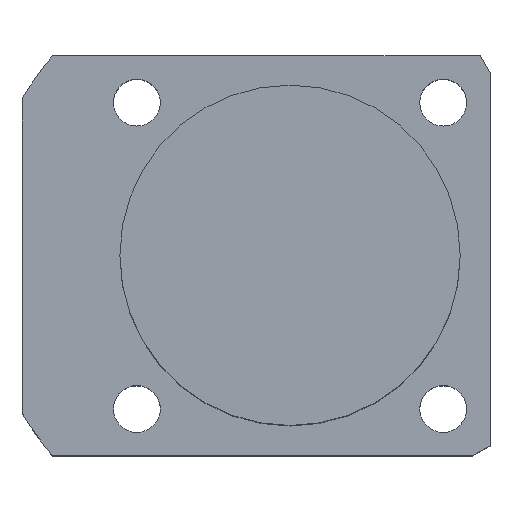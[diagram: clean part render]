
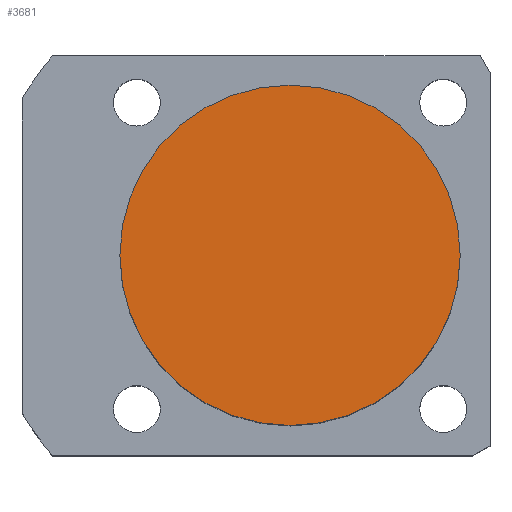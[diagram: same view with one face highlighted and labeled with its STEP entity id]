
A CAD part, top view. The second image highlights one B-rep face of the part: STEP entity #3681.
In plain terms, the highlighted planar face has unit normal (0, 0, 1).
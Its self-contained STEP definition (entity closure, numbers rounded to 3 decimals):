
#34 = CARTESIAN_POINT ( 'NONE',  ( 20., 0., 46.5 ) ) ;
#77 = AXIS2_PLACEMENT_3D ( 'NONE', #3785, #1974, #4457 ) ;
#153 = EDGE_CURVE ( 'NONE', #2581, #4307, #4546, .T. ) ;
#257 = DIRECTION ( 'NONE',  ( 1., 0., 0. ) ) ;
#337 = DIRECTION ( 'NONE',  ( 0., 0., 1. ) ) ;
#579 = CARTESIAN_POINT ( 'NONE',  ( 0., 0., 46.5 ) ) ;
#708 = EDGE_LOOP ( 'NONE', ( #1627, #2639 ) ) ;
#824 = FACE_OUTER_BOUND ( 'NONE', #708, .T. ) ;
#1065 = DIRECTION ( 'NONE',  ( 0., 0., 1. ) ) ;
#1276 = PLANE ( 'NONE',  #77 ) ;
#1627 = ORIENTED_EDGE ( 'NONE', *, *, #3075, .T. ) ;
#1974 = DIRECTION ( 'NONE',  ( 0., 0., 1. ) ) ;
#2581 = VERTEX_POINT ( 'NONE', #34 ) ;
#2639 = ORIENTED_EDGE ( 'NONE', *, *, #153, .T. ) ;
#3075 = EDGE_CURVE ( 'NONE', #4307, #2581, #3868, .T. ) ;
#3212 = CARTESIAN_POINT ( 'NONE',  ( 0., 0., 46.5 ) ) ;
#3489 = CARTESIAN_POINT ( 'NONE',  ( -20., 0., 46.5 ) ) ;
#3571 = DIRECTION ( 'NONE',  ( 1., 0., 0. ) ) ;
#3634 = AXIS2_PLACEMENT_3D ( 'NONE', #579, #337, #257 ) ;
#3681 = ADVANCED_FACE ( 'NONE', ( #824 ), #1276, .T. ) ;
#3785 = CARTESIAN_POINT ( 'NONE',  ( 0., 0., 46.5 ) ) ;
#3868 = CIRCLE ( 'NONE', #3927, 20. ) ;
#3927 = AXIS2_PLACEMENT_3D ( 'NONE', #3212, #1065, #3571 ) ;
#4307 = VERTEX_POINT ( 'NONE', #3489 ) ;
#4457 = DIRECTION ( 'NONE',  ( 1., 0., 0. ) ) ;
#4546 = CIRCLE ( 'NONE', #3634, 20. ) ;
